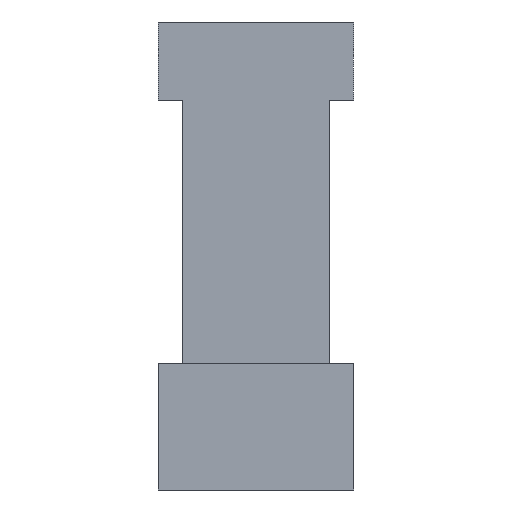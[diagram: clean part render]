
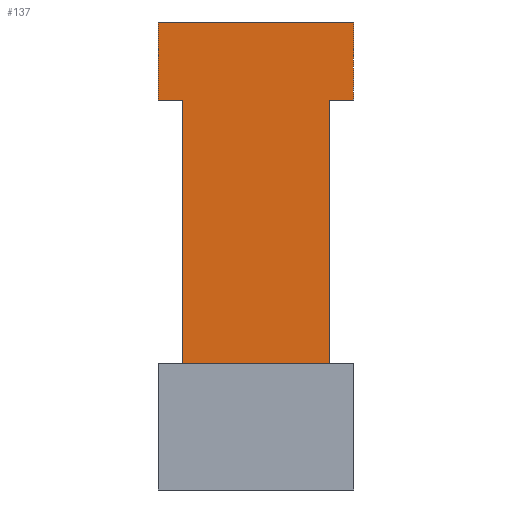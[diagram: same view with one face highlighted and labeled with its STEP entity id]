
A CAD part, front view. The second image highlights one B-rep face of the part: STEP entity #137.
In plain terms, the highlighted planar face has unit normal (0, -1, 0).
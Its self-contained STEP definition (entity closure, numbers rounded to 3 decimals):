
#10 = EDGE_CURVE ( 'NONE', #576, #217, #604, .T. ) ;
#14 = VECTOR ( 'NONE', #564, 1000. ) ;
#21 = CARTESIAN_POINT ( 'NONE',  ( -10., 0., 0. ) ) ;
#23 = CARTESIAN_POINT ( 'NONE',  ( 10., 0., -8. ) ) ;
#27 = LINE ( 'NONE', #23, #14 ) ;
#37 = EDGE_CURVE ( 'NONE', #165, #576, #27, .T. ) ;
#45 = DIRECTION ( 'NONE',  ( -1., 0., 0. ) ) ;
#48 = CARTESIAN_POINT ( 'NONE',  ( -7.5, 0., -8. ) ) ;
#54 = CARTESIAN_POINT ( 'NONE',  ( 10., 0., -8. ) ) ;
#55 = ORIENTED_EDGE ( 'NONE', *, *, #10, .T. ) ;
#57 = DIRECTION ( 'NONE',  ( -1., 0., 0. ) ) ;
#63 = ORIENTED_EDGE ( 'NONE', *, *, #37, .T. ) ;
#66 = ORIENTED_EDGE ( 'NONE', *, *, #364, .F. ) ;
#70 = LINE ( 'NONE', #355, #345 ) ;
#78 = EDGE_CURVE ( 'NONE', #598, #498, #150, .T. ) ;
#93 = VERTEX_POINT ( 'NONE', #107 ) ;
#100 = FACE_OUTER_BOUND ( 'NONE', #240, .T. ) ;
#107 = CARTESIAN_POINT ( 'NONE',  ( 7.5, 0., -8. ) ) ;
#114 = CARTESIAN_POINT ( 'NONE',  ( 10., 0., 0. ) ) ;
#117 = DIRECTION ( 'NONE',  ( 0., 0., -1. ) ) ;
#125 = EDGE_CURVE ( 'NONE', #543, #492, #152, .T. ) ;
#134 = CARTESIAN_POINT ( 'NONE',  ( 10., 0., -8. ) ) ;
#137 = ADVANCED_FACE ( 'NONE', ( #100 ), #442, .T. ) ;
#138 = CARTESIAN_POINT ( 'NONE',  ( -7.5, 0., -35. ) ) ;
#150 = LINE ( 'NONE', #624, #177 ) ;
#152 = LINE ( 'NONE', #285, #514 ) ;
#154 = ORIENTED_EDGE ( 'NONE', *, *, #78, .F. ) ;
#165 = VERTEX_POINT ( 'NONE', #134 ) ;
#167 = CARTESIAN_POINT ( 'NONE',  ( 10., 0., 0. ) ) ;
#177 = VECTOR ( 'NONE', #57, 1000. ) ;
#178 = VECTOR ( 'NONE', #523, 1000. ) ;
#182 = ORIENTED_EDGE ( 'NONE', *, *, #125, .F. ) ;
#189 = CARTESIAN_POINT ( 'NONE',  ( 10., 0., -8. ) ) ;
#193 = DIRECTION ( 'NONE',  ( 0., -1., 0. ) ) ;
#209 = VECTOR ( 'NONE', #315, 1000. ) ;
#217 = VERTEX_POINT ( 'NONE', #21 ) ;
#227 = DIRECTION ( 'NONE',  ( 0., 0., -1. ) ) ;
#240 = EDGE_LOOP ( 'NONE', ( #66, #182, #532, #154, #354, #422, #63, #55 ) ) ;
#285 = CARTESIAN_POINT ( 'NONE',  ( 10., 0., -8. ) ) ;
#315 = DIRECTION ( 'NONE',  ( 0., 0., 1. ) ) ;
#330 = AXIS2_PLACEMENT_3D ( 'NONE', #54, #193, #227 ) ;
#331 = CARTESIAN_POINT ( 'NONE',  ( -10., 0., -8. ) ) ;
#345 = VECTOR ( 'NONE', #540, 1000. ) ;
#350 = CARTESIAN_POINT ( 'NONE',  ( 7.5, 0., -8. ) ) ;
#354 = ORIENTED_EDGE ( 'NONE', *, *, #585, .F. ) ;
#355 = CARTESIAN_POINT ( 'NONE',  ( -7.5, 0., -8. ) ) ;
#364 = EDGE_CURVE ( 'NONE', #492, #217, #416, .T. ) ;
#399 = LINE ( 'NONE', #350, #428 ) ;
#416 = LINE ( 'NONE', #567, #209 ) ;
#422 = ORIENTED_EDGE ( 'NONE', *, *, #520, .F. ) ;
#428 = VECTOR ( 'NONE', #117, 1000. ) ;
#442 = PLANE ( 'NONE',  #330 ) ;
#456 = CARTESIAN_POINT ( 'NONE',  ( 7.5, 0., -35. ) ) ;
#459 = DIRECTION ( 'NONE',  ( -1., 0., 0. ) ) ;
#492 = VERTEX_POINT ( 'NONE', #331 ) ;
#498 = VERTEX_POINT ( 'NONE', #138 ) ;
#514 = VECTOR ( 'NONE', #45, 1000. ) ;
#520 = EDGE_CURVE ( 'NONE', #165, #93, #621, .T. ) ;
#523 = DIRECTION ( 'NONE',  ( -1., 0., 0. ) ) ;
#532 = ORIENTED_EDGE ( 'NONE', *, *, #592, .T. ) ;
#540 = DIRECTION ( 'NONE',  ( 0., 0., -1. ) ) ;
#543 = VERTEX_POINT ( 'NONE', #48 ) ;
#564 = DIRECTION ( 'NONE',  ( 0., 0., 1. ) ) ;
#567 = CARTESIAN_POINT ( 'NONE',  ( -10., 0., -8. ) ) ;
#575 = VECTOR ( 'NONE', #459, 1000. ) ;
#576 = VERTEX_POINT ( 'NONE', #114 ) ;
#585 = EDGE_CURVE ( 'NONE', #93, #598, #399, .T. ) ;
#592 = EDGE_CURVE ( 'NONE', #543, #498, #70, .T. ) ;
#598 = VERTEX_POINT ( 'NONE', #456 ) ;
#604 = LINE ( 'NONE', #167, #575 ) ;
#621 = LINE ( 'NONE', #189, #178 ) ;
#624 = CARTESIAN_POINT ( 'NONE',  ( 7.5, 0., -35. ) ) ;
